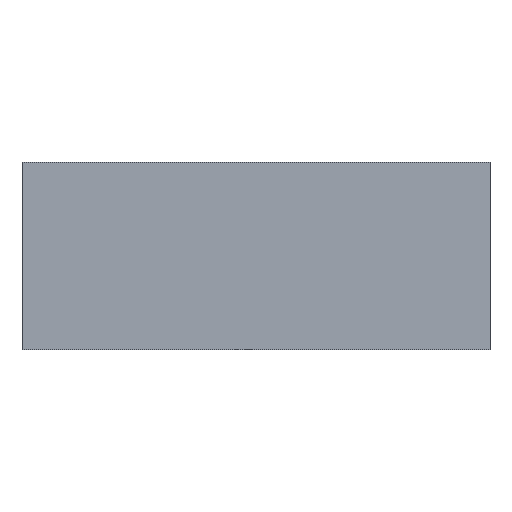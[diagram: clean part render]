
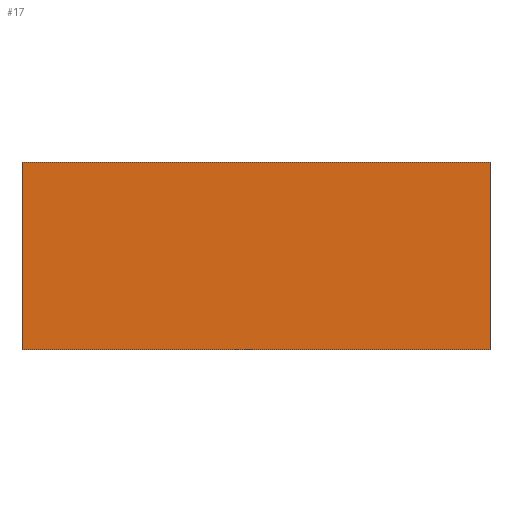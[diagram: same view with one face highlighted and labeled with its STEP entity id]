
A CAD part, front view. The second image highlights one B-rep face of the part: STEP entity #17.
In plain terms, the highlighted planar face has unit normal (0, -1, 0).
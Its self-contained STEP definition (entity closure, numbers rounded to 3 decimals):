
#17 = ADVANCED_FACE('',(#18),#32,.F.);
#18 = FACE_BOUND('',#19,.F.);
#19 = EDGE_LOOP('',(#20,#55,#83,#111));
#20 = ORIENTED_EDGE('',*,*,#21,.T.);
#21 = EDGE_CURVE('',#22,#24,#26,.T.);
#22 = VERTEX_POINT('',#23);
#23 = CARTESIAN_POINT('',(0.,0.,0.));
#24 = VERTEX_POINT('',#25);
#25 = CARTESIAN_POINT('',(0.,0.,12.));
#26 = SURFACE_CURVE('',#27,(#31,#43),.PCURVE_S1.);
#27 = LINE('',#28,#29);
#28 = CARTESIAN_POINT('',(0.,0.,0.));
#29 = VECTOR('',#30,1.);
#30 = DIRECTION('',(0.,0.,1.));
#31 = PCURVE('',#32,#37);
#32 = PLANE('',#33);
#33 = AXIS2_PLACEMENT_3D('',#34,#35,#36);
#34 = CARTESIAN_POINT('',(0.,0.,0.));
#35 = DIRECTION('',(0.,1.,0.));
#36 = DIRECTION('',(1.,0.,0.));
#37 = DEFINITIONAL_REPRESENTATION('',(#38),#42);
#38 = LINE('',#39,#40);
#39 = CARTESIAN_POINT('',(0.,0.));
#40 = VECTOR('',#41,1.);
#41 = DIRECTION('',(0.,-1.));
#42 = ( GEOMETRIC_REPRESENTATION_CONTEXT(2) 
PARAMETRIC_REPRESENTATION_CONTEXT() REPRESENTATION_CONTEXT('2D SPACE',''
  ) );
#43 = PCURVE('',#44,#49);
#44 = PLANE('',#45);
#45 = AXIS2_PLACEMENT_3D('',#46,#47,#48);
#46 = CARTESIAN_POINT('',(0.,80.,0.));
#47 = DIRECTION('',(1.,0.,-0.));
#48 = DIRECTION('',(0.,-1.,0.));
#49 = DEFINITIONAL_REPRESENTATION('',(#50),#54);
#50 = LINE('',#51,#52);
#51 = CARTESIAN_POINT('',(80.,0.));
#52 = VECTOR('',#53,1.);
#53 = DIRECTION('',(0.,-1.));
#54 = ( GEOMETRIC_REPRESENTATION_CONTEXT(2) 
PARAMETRIC_REPRESENTATION_CONTEXT() REPRESENTATION_CONTEXT('2D SPACE',''
  ) );
#55 = ORIENTED_EDGE('',*,*,#56,.T.);
#56 = EDGE_CURVE('',#24,#57,#59,.T.);
#57 = VERTEX_POINT('',#58);
#58 = CARTESIAN_POINT('',(30.,0.,12.));
#59 = SURFACE_CURVE('',#60,(#64,#71),.PCURVE_S1.);
#60 = LINE('',#61,#62);
#61 = CARTESIAN_POINT('',(0.,0.,12.));
#62 = VECTOR('',#63,1.);
#63 = DIRECTION('',(1.,0.,0.));
#64 = PCURVE('',#32,#65);
#65 = DEFINITIONAL_REPRESENTATION('',(#66),#70);
#66 = LINE('',#67,#68);
#67 = CARTESIAN_POINT('',(0.,-12.));
#68 = VECTOR('',#69,1.);
#69 = DIRECTION('',(1.,0.));
#70 = ( GEOMETRIC_REPRESENTATION_CONTEXT(2) 
PARAMETRIC_REPRESENTATION_CONTEXT() REPRESENTATION_CONTEXT('2D SPACE',''
  ) );
#71 = PCURVE('',#72,#77);
#72 = PLANE('',#73);
#73 = AXIS2_PLACEMENT_3D('',#74,#75,#76);
#74 = CARTESIAN_POINT('',(8.86,33.86,12.));
#75 = DIRECTION('',(0.,0.,1.));
#76 = DIRECTION('',(1.,0.,-0.));
#77 = DEFINITIONAL_REPRESENTATION('',(#78),#82);
#78 = LINE('',#79,#80);
#79 = CARTESIAN_POINT('',(-8.86,-33.86));
#80 = VECTOR('',#81,1.);
#81 = DIRECTION('',(1.,0.));
#82 = ( GEOMETRIC_REPRESENTATION_CONTEXT(2) 
PARAMETRIC_REPRESENTATION_CONTEXT() REPRESENTATION_CONTEXT('2D SPACE',''
  ) );
#83 = ORIENTED_EDGE('',*,*,#84,.F.);
#84 = EDGE_CURVE('',#85,#57,#87,.T.);
#85 = VERTEX_POINT('',#86);
#86 = CARTESIAN_POINT('',(30.,0.,0.));
#87 = SURFACE_CURVE('',#88,(#92,#99),.PCURVE_S1.);
#88 = LINE('',#89,#90);
#89 = CARTESIAN_POINT('',(30.,0.,0.));
#90 = VECTOR('',#91,1.);
#91 = DIRECTION('',(0.,0.,1.));
#92 = PCURVE('',#32,#93);
#93 = DEFINITIONAL_REPRESENTATION('',(#94),#98);
#94 = LINE('',#95,#96);
#95 = CARTESIAN_POINT('',(30.,0.));
#96 = VECTOR('',#97,1.);
#97 = DIRECTION('',(0.,-1.));
#98 = ( GEOMETRIC_REPRESENTATION_CONTEXT(2) 
PARAMETRIC_REPRESENTATION_CONTEXT() REPRESENTATION_CONTEXT('2D SPACE',''
  ) );
#99 = PCURVE('',#100,#105);
#100 = PLANE('',#101);
#101 = AXIS2_PLACEMENT_3D('',#102,#103,#104);
#102 = CARTESIAN_POINT('',(30.,0.,0.));
#103 = DIRECTION('',(-0.936,-0.351,0.));
#104 = DIRECTION('',(-0.351,0.936,0.));
#105 = DEFINITIONAL_REPRESENTATION('',(#106),#110);
#106 = LINE('',#107,#108);
#107 = CARTESIAN_POINT('',(0.,0.));
#108 = VECTOR('',#109,1.);
#109 = DIRECTION('',(0.,-1.));
#110 = ( GEOMETRIC_REPRESENTATION_CONTEXT(2) 
PARAMETRIC_REPRESENTATION_CONTEXT() REPRESENTATION_CONTEXT('2D SPACE',''
  ) );
#111 = ORIENTED_EDGE('',*,*,#112,.F.);
#112 = EDGE_CURVE('',#22,#85,#113,.T.);
#113 = SURFACE_CURVE('',#114,(#118,#125),.PCURVE_S1.);
#114 = LINE('',#115,#116);
#115 = CARTESIAN_POINT('',(0.,0.,0.));
#116 = VECTOR('',#117,1.);
#117 = DIRECTION('',(1.,0.,0.));
#118 = PCURVE('',#32,#119);
#119 = DEFINITIONAL_REPRESENTATION('',(#120),#124);
#120 = LINE('',#121,#122);
#121 = CARTESIAN_POINT('',(0.,0.));
#122 = VECTOR('',#123,1.);
#123 = DIRECTION('',(1.,0.));
#124 = ( GEOMETRIC_REPRESENTATION_CONTEXT(2) 
PARAMETRIC_REPRESENTATION_CONTEXT() REPRESENTATION_CONTEXT('2D SPACE',''
  ) );
#125 = PCURVE('',#126,#131);
#126 = PLANE('',#127);
#127 = AXIS2_PLACEMENT_3D('',#128,#129,#130);
#128 = CARTESIAN_POINT('',(8.86,33.86,0.));
#129 = DIRECTION('',(0.,0.,1.));
#130 = DIRECTION('',(1.,0.,-0.));
#131 = DEFINITIONAL_REPRESENTATION('',(#132),#136);
#132 = LINE('',#133,#134);
#133 = CARTESIAN_POINT('',(-8.86,-33.86));
#134 = VECTOR('',#135,1.);
#135 = DIRECTION('',(1.,0.));
#136 = ( GEOMETRIC_REPRESENTATION_CONTEXT(2) 
PARAMETRIC_REPRESENTATION_CONTEXT() REPRESENTATION_CONTEXT('2D SPACE',''
  ) );
